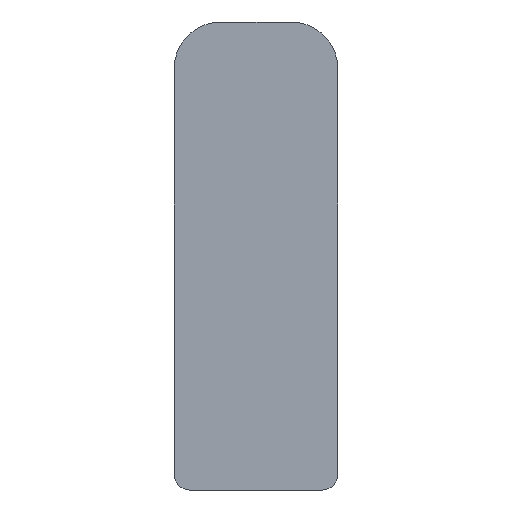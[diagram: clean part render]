
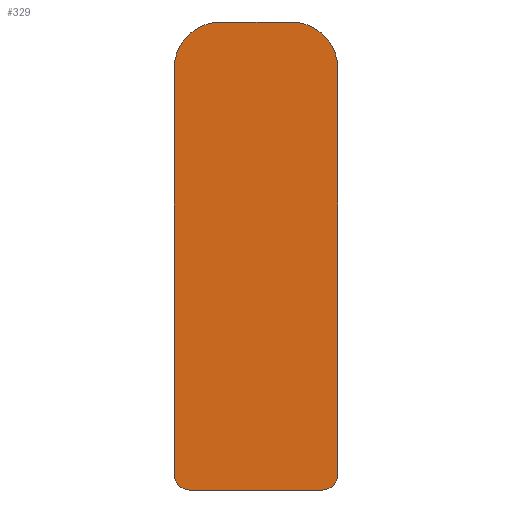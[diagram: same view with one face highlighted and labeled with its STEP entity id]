
A CAD part, left-side view. The second image highlights one B-rep face of the part: STEP entity #329.
In plain terms, the highlighted planar face has unit normal (-1, 0, 0).
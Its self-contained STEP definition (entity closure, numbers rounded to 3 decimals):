
#4 = VECTOR ( 'NONE', #303, 1000. ) ;
#5 = LINE ( 'NONE', #304, #4 ) ;
#25 = FACE_OUTER_BOUND ( 'NONE', #86, .T. ) ;
#33 = CIRCLE ( 'NONE', #175, 3. ) ;
#38 = VECTOR ( 'NONE', #266, 1000. ) ;
#39 = LINE ( 'NONE', #267, #38 ) ;
#45 = VECTOR ( 'NONE', #279, 1000. ) ;
#47 = LINE ( 'NONE', #280, #45 ) ;
#51 = CIRCLE ( 'NONE', #173, 1. ) ;
#53 = CIRCLE ( 'NONE', #174, 1. ) ;
#56 = AXIS2_PLACEMENT_3D ( 'NONE', #229, #223, #220 ) ;
#61 = EDGE_CURVE ( 'NONE', #295, #298, #128, .T. ) ;
#65 = EDGE_CURVE ( 'NONE', #298, #322, #123, .T. ) ;
#68 = EDGE_CURVE ( 'NONE', #322, #278, #33, .T. ) ;
#71 = EDGE_CURVE ( 'NONE', #278, #277, #5, .T. ) ;
#74 = EDGE_CURVE ( 'NONE', #302, #285, #53, .T. ) ;
#75 = EDGE_CURVE ( 'NONE', #277, #327, #51, .T. ) ;
#86 = EDGE_LOOP ( 'NONE', ( #108, #109, #110, #111, #112, #113, #114, #115 ) ) ;
#108 = ORIENTED_EDGE ( 'NONE', *, *, #61, .T. ) ;
#109 = ORIENTED_EDGE ( 'NONE', *, *, #65, .T. ) ;
#110 = ORIENTED_EDGE ( 'NONE', *, *, #68, .T. ) ;
#111 = ORIENTED_EDGE ( 'NONE', *, *, #71, .T. ) ;
#112 = ORIENTED_EDGE ( 'NONE', *, *, #75, .T. ) ;
#113 = ORIENTED_EDGE ( 'NONE', *, *, #152, .T. ) ;
#114 = ORIENTED_EDGE ( 'NONE', *, *, #74, .T. ) ;
#115 = ORIENTED_EDGE ( 'NONE', *, *, #156, .T. ) ;
#122 = VECTOR ( 'NONE', #321, 1000. ) ;
#123 = LINE ( 'NONE', #323, #122 ) ;
#128 = CIRCLE ( 'NONE', #56, 3. ) ;
#152 = EDGE_CURVE ( 'NONE', #327, #302, #47, .T. ) ;
#156 = EDGE_CURVE ( 'NONE', #285, #295, #39, .T. ) ;
#167 = AXIS2_PLACEMENT_3D ( 'NONE', #234, #232, #231 ) ;
#173 = AXIS2_PLACEMENT_3D ( 'NONE', #290, #289, #287 ) ;
#174 = AXIS2_PLACEMENT_3D ( 'NONE', #294, #293, #291 ) ;
#175 = AXIS2_PLACEMENT_3D ( 'NONE', #313, #312, #311 ) ;
#220 = DIRECTION ( 'NONE',  ( 0., 0., 1. ) ) ;
#223 = DIRECTION ( 'NONE',  ( -1., 0., 0. ) ) ;
#229 = CARTESIAN_POINT ( 'NONE',  ( -356.25, -2.25, 27. ) ) ;
#231 = DIRECTION ( 'NONE',  ( 0., 0., 1. ) ) ;
#232 = DIRECTION ( 'NONE',  ( -1., 0., 0. ) ) ;
#234 = CARTESIAN_POINT ( 'NONE',  ( -356.25, -2.25, 27. ) ) ;
#235 = PLANE ( 'NONE',  #167 ) ;
#241 = CARTESIAN_POINT ( 'NONE',  ( -356.25, 4.25, 0. ) ) ;
#244 = CARTESIAN_POINT ( 'NONE',  ( -356.25, 2.25, 30. ) ) ;
#249 = CARTESIAN_POINT ( 'NONE',  ( -356.25, -4.25, 0. ) ) ;
#250 = CARTESIAN_POINT ( 'NONE',  ( -356.25, -2.25, 30. ) ) ;
#251 = CARTESIAN_POINT ( 'NONE',  ( -356.25, -5.25, 27. ) ) ;
#254 = CARTESIAN_POINT ( 'NONE',  ( -356.25, -5.25, 1. ) ) ;
#256 = CARTESIAN_POINT ( 'NONE',  ( -356.25, 5.25, 27. ) ) ;
#257 = CARTESIAN_POINT ( 'NONE',  ( -356.25, 5.25, 1. ) ) ;
#266 = DIRECTION ( 'NONE',  ( 0., 0., 1. ) ) ;
#267 = CARTESIAN_POINT ( 'NONE',  ( -356.25, -5.25, 1. ) ) ;
#277 = VERTEX_POINT ( 'NONE', #257 ) ;
#278 = VERTEX_POINT ( 'NONE', #256 ) ;
#279 = DIRECTION ( 'NONE',  ( 0., -1., 0. ) ) ;
#280 = CARTESIAN_POINT ( 'NONE',  ( -356.25, -4.25, 0. ) ) ;
#285 = VERTEX_POINT ( 'NONE', #254 ) ;
#287 = DIRECTION ( 'NONE',  ( 0., 0., -1. ) ) ;
#289 = DIRECTION ( 'NONE',  ( -1., 0., 0. ) ) ;
#290 = CARTESIAN_POINT ( 'NONE',  ( -356.25, 4.25, 1. ) ) ;
#291 = DIRECTION ( 'NONE',  ( 0., 0., -1. ) ) ;
#293 = DIRECTION ( 'NONE',  ( -1., 0., 0. ) ) ;
#294 = CARTESIAN_POINT ( 'NONE',  ( -356.25, -4.25, 1. ) ) ;
#295 = VERTEX_POINT ( 'NONE', #251 ) ;
#298 = VERTEX_POINT ( 'NONE', #250 ) ;
#302 = VERTEX_POINT ( 'NONE', #249 ) ;
#303 = DIRECTION ( 'NONE',  ( 0., 0., -1. ) ) ;
#304 = CARTESIAN_POINT ( 'NONE',  ( -356.25, 5.25, 1. ) ) ;
#311 = DIRECTION ( 'NONE',  ( 0., 0., -1. ) ) ;
#312 = DIRECTION ( 'NONE',  ( -1., 0., 0. ) ) ;
#313 = CARTESIAN_POINT ( 'NONE',  ( -356.25, 2.25, 27. ) ) ;
#321 = DIRECTION ( 'NONE',  ( 0., 1., 0. ) ) ;
#322 = VERTEX_POINT ( 'NONE', #244 ) ;
#323 = CARTESIAN_POINT ( 'NONE',  ( -356.25, -2.25, 30. ) ) ;
#327 = VERTEX_POINT ( 'NONE', #241 ) ;
#329 = ADVANCED_FACE ( 'NONE', ( #25 ), #235, .T. ) ;
